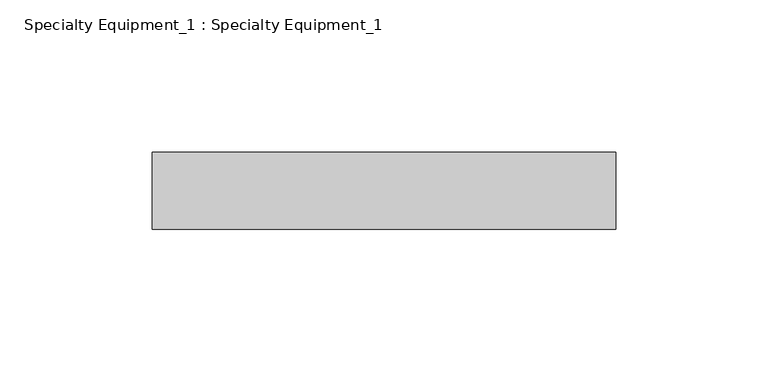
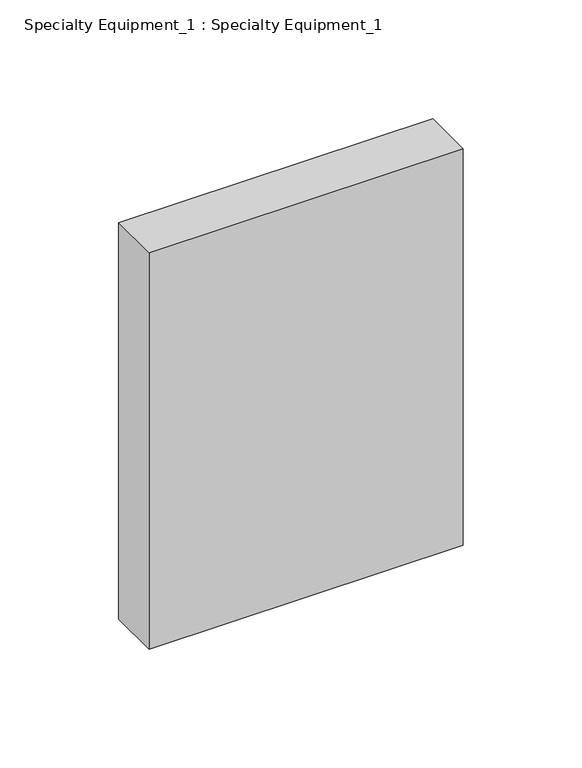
"""IFC4 building model written with IfcOpenShell, lengths in millimetres: proxy geometry, Specialty Equipment_1 : Specialty Equipment_1."""

from ifc_helpers import new_model, si_unit, origin, origin_with_axes, place, context, project, spatial, polyline, outline, extrude, source, transform, mapped, element, save


def specialty_equipment_1_specialty_equipment_1_d450ff97(model_context):
    return source(origin(), model_context, "Body", "SweptSolid", [
        extrude(outline(polyline([(76.2, 0.0), (76.2, -25.4), (-76.2, -25.4), (-76.2, 0.0), (76.2, 0.0)])), origin_with_axes(), (0.0, 0.0, 1.0), 203.2),
    ])


if __name__ == "__main__":
    model = new_model("IFC4")
    model_context = context("Model", 3, world=origin())
    ifc_project = project(units=[si_unit("LENGTHUNIT", "METRE", prefix="MILLI")], contexts=[model_context])
    site = spatial("IfcSite", under=ifc_project)
    building = spatial("IfcBuilding", under=site)
    placement = place(None, origin())
    specialty_equipment_1_specialty_equipment_1_shape = specialty_equipment_1_specialty_equipment_1_d450ff97(model_context)
    element("IfcBuildingElementProxy", 1, Name="Specialty Equipment_1 : Specialty Equipment_1", ObjectType="Specialty Equipment_1 : Specialty Equipment_1", at=placement, inside=building, context=model_context, shape_type="MappedRepresentation", body=[
        mapped(specialty_equipment_1_specialty_equipment_1_shape, transform((0.0, 0.0, 0.0), x_axis=(1.0, 0.0, 0.0), y_axis=(0.0, 1.0, 0.0), z_axis=(0.0, 0.0, 1.0))),
    ])
    save(model, "model.ifc")
